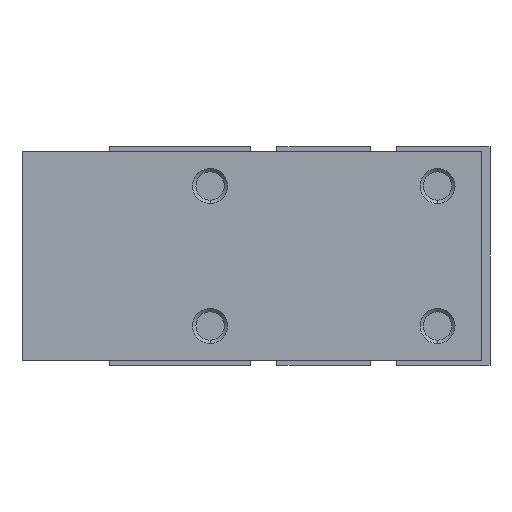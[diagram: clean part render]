
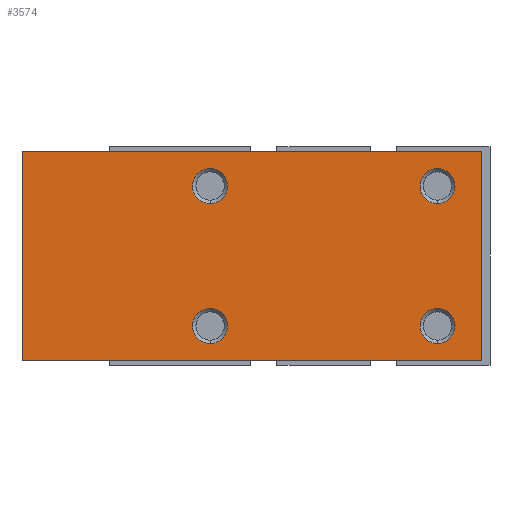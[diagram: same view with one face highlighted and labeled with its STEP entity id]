
A CAD part, left-side view. The second image highlights one B-rep face of the part: STEP entity #3574.
In plain terms, the highlighted planar face has unit normal (-1, 0, 0).
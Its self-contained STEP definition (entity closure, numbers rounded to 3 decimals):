
#161 = VERTEX_POINT ( 'NONE', #1165 ) ;
#164 = ORIENTED_EDGE ( 'NONE', *, *, #2018, .F. ) ;
#190 = CIRCLE ( 'NONE', #3067, 2. ) ;
#210 = VERTEX_POINT ( 'NONE', #4434 ) ;
#233 = CARTESIAN_POINT ( 'NONE',  ( -14., 13., -8. ) ) ;
#241 = LINE ( 'NONE', #3846, #1597 ) ;
#425 = VERTEX_POINT ( 'NONE', #3624 ) ;
#469 = CARTESIAN_POINT ( 'NONE',  ( -14., 34.5, -12. ) ) ;
#470 = DIRECTION ( 'NONE',  ( 0., 1., 0. ) ) ;
#534 = EDGE_LOOP ( 'NONE', ( #4161, #164 ) ) ;
#541 = ORIENTED_EDGE ( 'NONE', *, *, #3418, .F. ) ;
#584 = DIRECTION ( 'NONE',  ( 0., 0., 1. ) ) ;
#687 = AXIS2_PLACEMENT_3D ( 'NONE', #4335, #3945, #1547 ) ;
#763 = VERTEX_POINT ( 'NONE', #5891 ) ;
#775 = DIRECTION ( 'NONE',  ( -1., 0., 0. ) ) ;
#836 = CIRCLE ( 'NONE', #3904, 2. ) ;
#860 = VERTEX_POINT ( 'NONE', #1448 ) ;
#864 = FACE_OUTER_BOUND ( 'NONE', #1504, .T. ) ;
#877 = CIRCLE ( 'NONE', #687, 2. ) ;
#907 = EDGE_CURVE ( 'NONE', #161, #3552, #836, .T. ) ;
#1086 = DIRECTION ( 'NONE',  ( -1., 0., 0. ) ) ;
#1165 = CARTESIAN_POINT ( 'NONE',  ( -14., -13., 10. ) ) ;
#1229 = AXIS2_PLACEMENT_3D ( 'NONE', #5505, #4919, #3200 ) ;
#1243 = CARTESIAN_POINT ( 'NONE',  ( -14., -18., 12. ) ) ;
#1321 = EDGE_CURVE ( 'NONE', #5842, #2383, #4472, .T. ) ;
#1365 = DIRECTION ( 'NONE',  ( 0., -1., 0. ) ) ;
#1401 = EDGE_CURVE ( 'NONE', #4068, #1696, #241, .T. ) ;
#1422 = EDGE_LOOP ( 'NONE', ( #2515, #2956 ) ) ;
#1448 = CARTESIAN_POINT ( 'NONE',  ( -14., -18., -12. ) ) ;
#1504 = EDGE_LOOP ( 'NONE', ( #4839, #1853, #4086, #5807 ) ) ;
#1547 = DIRECTION ( 'NONE',  ( 0., 0., 1. ) ) ;
#1563 = CIRCLE ( 'NONE', #1756, 2. ) ;
#1597 = VECTOR ( 'NONE', #5253, 1000. ) ;
#1613 = DIRECTION ( 'NONE',  ( -1., 0., 0. ) ) ;
#1643 = CARTESIAN_POINT ( 'NONE',  ( -14., 34.5, -12. ) ) ;
#1696 = VERTEX_POINT ( 'NONE', #1858 ) ;
#1756 = AXIS2_PLACEMENT_3D ( 'NONE', #3236, #5926, #1822 ) ;
#1822 = DIRECTION ( 'NONE',  ( 0., 0., 1. ) ) ;
#1853 = ORIENTED_EDGE ( 'NONE', *, *, #3918, .F. ) ;
#1858 = CARTESIAN_POINT ( 'NONE',  ( -14., -18., 12. ) ) ;
#1936 = ORIENTED_EDGE ( 'NONE', *, *, #2165, .F. ) ;
#2018 = EDGE_CURVE ( 'NONE', #5185, #210, #3824, .T. ) ;
#2046 = VECTOR ( 'NONE', #4700, 1000. ) ;
#2165 = EDGE_CURVE ( 'NONE', #425, #763, #4112, .T. ) ;
#2187 = FACE_BOUND ( 'NONE', #1422, .T. ) ;
#2201 = EDGE_CURVE ( 'NONE', #763, #425, #190, .T. ) ;
#2271 = FACE_BOUND ( 'NONE', #534, .T. ) ;
#2362 = EDGE_CURVE ( 'NONE', #5793, #860, #2785, .T. ) ;
#2369 = AXIS2_PLACEMENT_3D ( 'NONE', #3785, #1086, #3730 ) ;
#2383 = VERTEX_POINT ( 'NONE', #3322 ) ;
#2492 = AXIS2_PLACEMENT_3D ( 'NONE', #5718, #1613, #3392 ) ;
#2515 = ORIENTED_EDGE ( 'NONE', *, *, #1321, .F. ) ;
#2698 = PLANE ( 'NONE',  #4230 ) ;
#2785 = LINE ( 'NONE', #469, #4693 ) ;
#2875 = DIRECTION ( 'NONE',  ( -1., 0., 0. ) ) ;
#2903 = CARTESIAN_POINT ( 'NONE',  ( -14., -13., 8. ) ) ;
#2956 = ORIENTED_EDGE ( 'NONE', *, *, #4576, .F. ) ;
#2974 = DIRECTION ( 'NONE',  ( -1., 0., 0. ) ) ;
#2997 = DIRECTION ( 'NONE',  ( 0., 0., 1. ) ) ;
#3067 = AXIS2_PLACEMENT_3D ( 'NONE', #233, #2974, #2997 ) ;
#3200 = DIRECTION ( 'NONE',  ( 0., 0., 1. ) ) ;
#3206 = CARTESIAN_POINT ( 'NONE',  ( -14., -13., 6. ) ) ;
#3236 = CARTESIAN_POINT ( 'NONE',  ( -14., -13., -8. ) ) ;
#3322 = CARTESIAN_POINT ( 'NONE',  ( -14., -13., -10. ) ) ;
#3338 = DIRECTION ( 'NONE',  ( 0., 0., 1. ) ) ;
#3392 = DIRECTION ( 'NONE',  ( 0., 0., 1. ) ) ;
#3418 = EDGE_CURVE ( 'NONE', #3552, #161, #3636, .T. ) ;
#3552 = VERTEX_POINT ( 'NONE', #3206 ) ;
#3574 = ADVANCED_FACE ( 'NONE', ( #864, #4015, #5845, #2187, #2271 ), #2698, .F. ) ;
#3624 = CARTESIAN_POINT ( 'NONE',  ( -14., 13., -6. ) ) ;
#3636 = CIRCLE ( 'NONE', #4692, 2. ) ;
#3657 = CARTESIAN_POINT ( 'NONE',  ( -14., -13., -6. ) ) ;
#3730 = DIRECTION ( 'NONE',  ( 0., 0., 1. ) ) ;
#3764 = CARTESIAN_POINT ( 'NONE',  ( -14., 13., 6. ) ) ;
#3785 = CARTESIAN_POINT ( 'NONE',  ( -14., -13., -8. ) ) ;
#3824 = CIRCLE ( 'NONE', #1229, 2. ) ;
#3833 = EDGE_CURVE ( 'NONE', #210, #5185, #877, .T. ) ;
#3846 = CARTESIAN_POINT ( 'NONE',  ( -14., 34.5, 12. ) ) ;
#3904 = AXIS2_PLACEMENT_3D ( 'NONE', #2903, #2875, #584 ) ;
#3918 = EDGE_CURVE ( 'NONE', #1696, #860, #5354, .T. ) ;
#3945 = DIRECTION ( 'NONE',  ( -1., 0., 0. ) ) ;
#3976 = DIRECTION ( 'NONE',  ( 0., 0., -1. ) ) ;
#4015 = FACE_BOUND ( 'NONE', #5147, .T. ) ;
#4068 = VERTEX_POINT ( 'NONE', #4132 ) ;
#4086 = ORIENTED_EDGE ( 'NONE', *, *, #1401, .F. ) ;
#4112 = CIRCLE ( 'NONE', #2492, 2. ) ;
#4132 = CARTESIAN_POINT ( 'NONE',  ( -14., 34.5, 12. ) ) ;
#4158 = CARTESIAN_POINT ( 'NONE',  ( -14., 34.5, 12. ) ) ;
#4161 = ORIENTED_EDGE ( 'NONE', *, *, #3833, .F. ) ;
#4230 = AXIS2_PLACEMENT_3D ( 'NONE', #4577, #4460, #470 ) ;
#4233 = VECTOR ( 'NONE', #3976, 1000. ) ;
#4335 = CARTESIAN_POINT ( 'NONE',  ( -14., 13., 8. ) ) ;
#4434 = CARTESIAN_POINT ( 'NONE',  ( -14., 13., 10. ) ) ;
#4460 = DIRECTION ( 'NONE',  ( 1., 0., 0. ) ) ;
#4472 = CIRCLE ( 'NONE', #2369, 2. ) ;
#4576 = EDGE_CURVE ( 'NONE', #2383, #5842, #1563, .T. ) ;
#4577 = CARTESIAN_POINT ( 'NONE',  ( -14., 34.5, 12. ) ) ;
#4692 = AXIS2_PLACEMENT_3D ( 'NONE', #4883, #775, #3338 ) ;
#4693 = VECTOR ( 'NONE', #1365, 1000. ) ;
#4700 = DIRECTION ( 'NONE',  ( 0., 0., -1. ) ) ;
#4722 = EDGE_CURVE ( 'NONE', #4068, #5793, #5626, .T. ) ;
#4839 = ORIENTED_EDGE ( 'NONE', *, *, #2362, .T. ) ;
#4883 = CARTESIAN_POINT ( 'NONE',  ( -14., -13., 8. ) ) ;
#4919 = DIRECTION ( 'NONE',  ( -1., 0., 0. ) ) ;
#5147 = EDGE_LOOP ( 'NONE', ( #1936, #5362 ) ) ;
#5185 = VERTEX_POINT ( 'NONE', #3764 ) ;
#5250 = EDGE_LOOP ( 'NONE', ( #5348, #541 ) ) ;
#5253 = DIRECTION ( 'NONE',  ( 0., -1., 0. ) ) ;
#5348 = ORIENTED_EDGE ( 'NONE', *, *, #907, .F. ) ;
#5354 = LINE ( 'NONE', #1243, #4233 ) ;
#5362 = ORIENTED_EDGE ( 'NONE', *, *, #2201, .F. ) ;
#5505 = CARTESIAN_POINT ( 'NONE',  ( -14., 13., 8. ) ) ;
#5626 = LINE ( 'NONE', #4158, #2046 ) ;
#5718 = CARTESIAN_POINT ( 'NONE',  ( -14., 13., -8. ) ) ;
#5793 = VERTEX_POINT ( 'NONE', #1643 ) ;
#5807 = ORIENTED_EDGE ( 'NONE', *, *, #4722, .T. ) ;
#5842 = VERTEX_POINT ( 'NONE', #3657 ) ;
#5845 = FACE_BOUND ( 'NONE', #5250, .T. ) ;
#5891 = CARTESIAN_POINT ( 'NONE',  ( -14., 13., -10. ) ) ;
#5926 = DIRECTION ( 'NONE',  ( -1., 0., 0. ) ) ;
